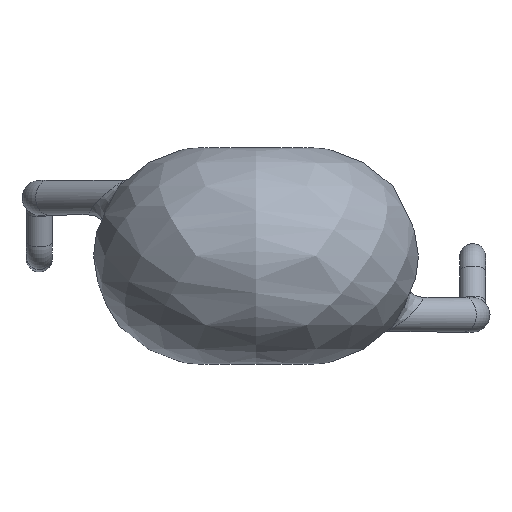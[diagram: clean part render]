
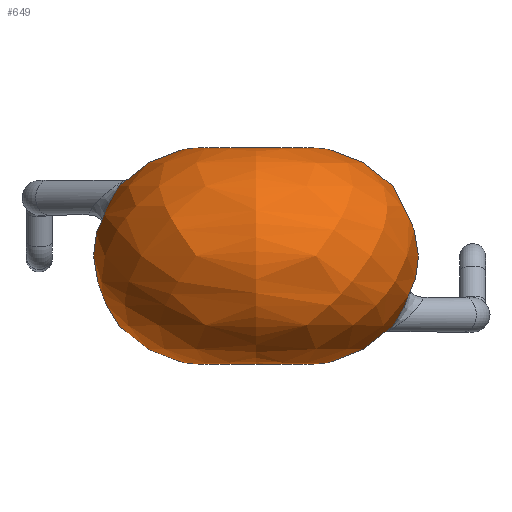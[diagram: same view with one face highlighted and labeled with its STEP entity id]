
A CAD part, top view. The second image highlights one B-rep face of the part: STEP entity #649.
In plain terms, the highlighted free-form (B-spline) face has degree [2, 2] with [7, 9] control points.
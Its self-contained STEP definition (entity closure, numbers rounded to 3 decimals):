
#451=CARTESIAN_POINT('',(3.424,0.439,-1.482));
#452=VERTEX_POINT('',#451);
#484=CARTESIAN_POINT('',(3.424,0.439,-1.481));
#485=CARTESIAN_POINT('',(3.525,0.374,-1.227));
#486=CARTESIAN_POINT('',(3.589,0.113,-0.868));
#487=CARTESIAN_POINT('',(3.475,-0.286,-0.633));
#488=CARTESIAN_POINT('',(3.362,-0.517,-0.559));
#489=CARTESIAN_POINT('',(3.222,-0.74,-0.531));
#490=CARTESIAN_POINT('',(3.042,-0.943,-0.583));
#491=CARTESIAN_POINT('',(2.86,-1.082,-0.742));
#492=CARTESIAN_POINT('',(2.7,-1.16,-0.972));
#493=CARTESIAN_POINT('',(2.582,-1.136,-1.325));
#494=CARTESIAN_POINT('',(2.539,-0.981,-1.72));
#495=CARTESIAN_POINT('',(2.557,-0.73,-2.049));
#496=CARTESIAN_POINT('',(2.638,-0.4,-2.273));
#497=CARTESIAN_POINT('',(2.789,-0.025,-2.336));
#498=CARTESIAN_POINT('',(3.007,0.307,-2.191));
#499=CARTESIAN_POINT('',(3.243,0.483,-1.871));
#500=CARTESIAN_POINT('',(3.373,0.472,-1.609));
#501=CARTESIAN_POINT('',(3.424,0.439,-1.481));
#502=B_SPLINE_CURVE_WITH_KNOTS('',3,(#484,#485,#486,#487,#488,#489,#490,#491,#492,#493,#494,#495,#496,#497,#498,#499,#500,#501),.UNSPECIFIED.,.T.,.U.,(4,1,1,1,1,1,1,1,1,1,1,1,1,1,1,4),(0.0,0.041,0.061,0.072,0.082,0.102,0.113,0.123,0.143,0.164,0.184,0.205,0.225,0.246,0.266,0.287),.UNSPECIFIED.);
#503=EDGE_CURVE('',#452,#452,#502,.T.);
#528=CARTESIAN_POINT('',(0.,2.915,0.));
#529=CARTESIAN_POINT('',(0.,3.964,-1.817));
#530=CARTESIAN_POINT('',(0.,2.357,-3.165));
#531=CARTESIAN_POINT('',(0.,0.75,-4.514));
#532=CARTESIAN_POINT('',(0.,-0.857,-3.165));
#533=CARTESIAN_POINT('',(0.,-2.464,-1.817));
#534=CARTESIAN_POINT('',(0.,-1.415,0.));
#535=CARTESIAN_POINT('',(0.,2.915,0.));
#536=CARTESIAN_POINT('',(-1.817,3.964,-1.817));
#537=CARTESIAN_POINT('',(-3.165,2.357,-3.165));
#538=CARTESIAN_POINT('',(-4.514,0.75,-4.514));
#539=CARTESIAN_POINT('',(-3.165,-0.857,-3.165));
#540=CARTESIAN_POINT('',(-1.817,-2.464,-1.817));
#541=CARTESIAN_POINT('',(0.,-1.415,0.));
#542=CARTESIAN_POINT('',(0.,2.915,0.));
#543=CARTESIAN_POINT('',(-1.817,3.964,0.));
#544=CARTESIAN_POINT('',(-3.165,2.357,0.));
#545=CARTESIAN_POINT('',(-4.514,0.75,0.));
#546=CARTESIAN_POINT('',(-3.165,-0.857,0.));
#547=CARTESIAN_POINT('',(-1.817,-2.464,0.));
#548=CARTESIAN_POINT('',(0.,-1.415,0.));
#549=CARTESIAN_POINT('',(0.,2.915,0.));
#550=CARTESIAN_POINT('',(-1.817,3.964,1.817));
#551=CARTESIAN_POINT('',(-3.165,2.357,3.165));
#552=CARTESIAN_POINT('',(-4.514,0.75,4.514));
#553=CARTESIAN_POINT('',(-3.165,-0.857,3.165));
#554=CARTESIAN_POINT('',(-1.817,-2.464,1.817));
#555=CARTESIAN_POINT('',(0.,-1.415,0.));
#556=CARTESIAN_POINT('',(0.,2.915,0.));
#557=CARTESIAN_POINT('',(0.,3.964,1.817));
#558=CARTESIAN_POINT('',(0.,2.357,3.165));
#559=CARTESIAN_POINT('',(0.,0.75,4.514));
#560=CARTESIAN_POINT('',(0.,-0.857,3.165));
#561=CARTESIAN_POINT('',(0.,-2.464,1.817));
#562=CARTESIAN_POINT('',(0.,-1.415,0.));
#563=CARTESIAN_POINT('',(0.,2.915,0.));
#564=CARTESIAN_POINT('',(1.817,3.964,1.817));
#565=CARTESIAN_POINT('',(3.165,2.357,3.165));
#566=CARTESIAN_POINT('',(4.514,0.75,4.514));
#567=CARTESIAN_POINT('',(3.165,-0.857,3.165));
#568=CARTESIAN_POINT('',(1.817,-2.464,1.817));
#569=CARTESIAN_POINT('',(0.,-1.415,0.));
#570=CARTESIAN_POINT('',(0.,2.915,0.));
#571=CARTESIAN_POINT('',(1.817,3.964,0.));
#572=CARTESIAN_POINT('',(3.165,2.357,0.));
#573=CARTESIAN_POINT('',(4.514,0.75,0.));
#574=CARTESIAN_POINT('',(3.165,-0.857,0.));
#575=CARTESIAN_POINT('',(1.817,-2.464,0.));
#576=CARTESIAN_POINT('',(0.,-1.415,0.));
#577=CARTESIAN_POINT('',(0.,2.915,0.));
#578=CARTESIAN_POINT('',(1.817,3.964,-1.817));
#579=CARTESIAN_POINT('',(3.165,2.357,-3.165));
#580=CARTESIAN_POINT('',(4.514,0.75,-4.514));
#581=CARTESIAN_POINT('',(3.165,-0.857,-3.165));
#582=CARTESIAN_POINT('',(1.817,-2.464,-1.817));
#583=CARTESIAN_POINT('',(0.,-1.415,0.));
#584=CARTESIAN_POINT('',(0.,2.915,0.));
#585=CARTESIAN_POINT('',(0.,3.964,-1.817));
#586=CARTESIAN_POINT('',(0.,2.357,-3.165));
#587=CARTESIAN_POINT('',(0.,0.75,-4.514));
#588=CARTESIAN_POINT('',(0.,-0.857,-3.165));
#589=CARTESIAN_POINT('',(0.,-2.464,-1.817));
#590=CARTESIAN_POINT('',(0.,-1.415,0.));
#598=(BOUNDED_SURFACE()B_SPLINE_SURFACE(2,2,((#528,#535,#542,#549,#556,#563,#570,#577,#584),(#529,#536,#543,#550,#557,#564,#571,#578,#585),(#530,#537,#544,#551,#558,#565,#572,#579,#586),(#531,#538,#545,#552,#559,#566,#573,#580,#587),(#532,#539,#546,#553,#560,#567,#574,#581,#588),(#533,#540,#547,#554,#561,#568,#575,#582,#589),(#534,#541,#548,#555,#562,#569,#576,#583,#590)),.UNSPECIFIED.,.F.,.T.,.U.)B_SPLINE_SURFACE_WITH_KNOTS((3,2,2,3),(3,2,2,2,3),(-2.094,-0.698,0.698,2.094),(0.0,1.571,3.142,4.712,6.283),.UNSPECIFIED.)GEOMETRIC_REPRESENTATION_ITEM()RATIONAL_B_SPLINE_SURFACE(((1.0,0.707,1.0,0.707,1.0,0.707,1.0,0.707,1.0),(0.766,0.542,0.766,0.542,0.766,0.542,0.766,0.542,0.766),(1.0,0.707,1.0,0.707,1.0,0.707,1.0,0.707,1.0),(0.766,0.542,0.766,0.542,0.766,0.542,0.766,0.542,0.766),(1.0,0.707,1.0,0.707,1.0,0.707,1.0,0.707,1.0),(0.766,0.542,0.766,0.542,0.766,0.542,0.766,0.542,0.766),(1.0,0.707,1.0,0.707,1.0,0.707,1.0,0.707,1.0)))REPRESENTATION_ITEM('')SURFACE());
#599=CARTESIAN_POINT('',(0.,3.25,1.25));
#600=VERTEX_POINT('',#599);
#601=CARTESIAN_POINT('',(0.,3.25,0.));
#602=DIRECTION('',(0.0,-1.0,0.0));
#603=DIRECTION('',(0.0,0.0,-1.0));
#604=AXIS2_PLACEMENT_3D('',#601,#602,#603);
#605=CIRCLE('',#604,1.25);
#606=EDGE_CURVE('',#600,#600,#605,.T.);
#607=ORIENTED_EDGE('',*,*,#606,.T.);
#608=EDGE_LOOP('',(#607));
#609=FACE_OUTER_BOUND('',#608,.T.);
#610=CARTESIAN_POINT('',(0.,-1.75,1.25));
#611=VERTEX_POINT('',#610);
#612=CARTESIAN_POINT('',(0.,-1.75,0.));
#613=DIRECTION('',(0.0,1.0,0.0));
#614=DIRECTION('',(0.0,0.0,-1.0));
#615=AXIS2_PLACEMENT_3D('',#612,#613,#614);
#616=CIRCLE('',#615,1.25);
#617=EDGE_CURVE('',#611,#611,#616,.T.);
#618=ORIENTED_EDGE('',*,*,#617,.T.);
#619=EDGE_LOOP('',(#618));
#620=FACE_BOUND('',#619,.T.);
#621=CARTESIAN_POINT('',(-2.711,2.642,-0.986));
#622=VERTEX_POINT('',#621);
#623=CARTESIAN_POINT('',(-2.71,2.642,-0.986));
#624=CARTESIAN_POINT('',(-2.648,2.655,-1.115));
#625=CARTESIAN_POINT('',(-2.57,2.615,-1.401));
#626=CARTESIAN_POINT('',(-2.542,2.472,-1.72));
#627=CARTESIAN_POINT('',(-2.552,2.31,-1.942));
#628=CARTESIAN_POINT('',(-2.575,2.167,-2.084));
#629=CARTESIAN_POINT('',(-2.613,2.006,-2.198));
#630=CARTESIAN_POINT('',(-2.687,1.772,-2.302));
#631=CARTESIAN_POINT('',(-2.824,1.459,-2.326));
#632=CARTESIAN_POINT('',(-3.05,1.148,-2.144));
#633=CARTESIAN_POINT('',(-3.283,1.006,-1.803));
#634=CARTESIAN_POINT('',(-3.526,1.072,-1.276));
#635=CARTESIAN_POINT('',(-3.586,1.444,-0.817));
#636=CARTESIAN_POINT('',(-3.43,1.906,-0.576));
#637=CARTESIAN_POINT('',(-3.224,2.248,-0.52));
#638=CARTESIAN_POINT('',(-2.944,2.539,-0.629));
#639=CARTESIAN_POINT('',(-2.773,2.629,-0.858));
#640=CARTESIAN_POINT('',(-2.71,2.642,-0.986));
#641=B_SPLINE_CURVE_WITH_KNOTS('',3,(#623,#624,#625,#626,#627,#628,#629,#630,#631,#632,#633,#634,#635,#636,#637,#638,#639,#640),.UNSPECIFIED.,.T.,.U.,(4,1,1,1,1,1,1,1,1,1,1,1,1,1,1,4),(0.0,0.02,0.041,0.051,0.061,0.071,0.081,0.102,0.122,0.142,0.162,0.203,0.223,0.244,0.264,0.284),.UNSPECIFIED.);
#642=EDGE_CURVE('',#622,#622,#641,.T.);
#643=ORIENTED_EDGE('',*,*,#642,.F.);
#644=EDGE_LOOP('',(#643));
#645=FACE_BOUND('',#644,.T.);
#646=ORIENTED_EDGE('',*,*,#503,.F.);
#647=EDGE_LOOP('',(#646));
#648=FACE_BOUND('',#647,.T.);
#649=ADVANCED_FACE('',(#609,#620,#645,#648),#598,.T.);
